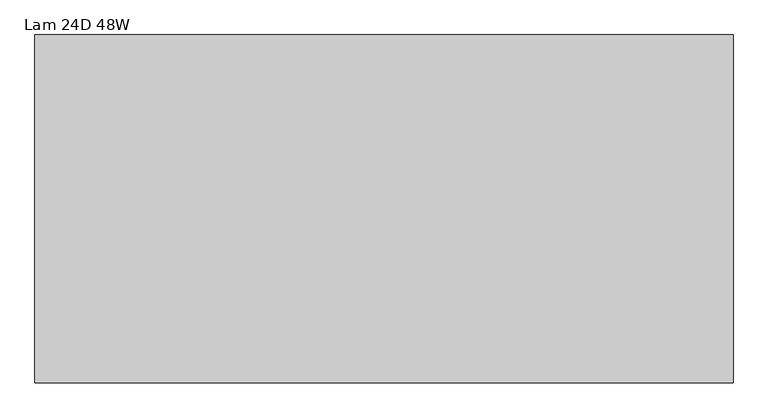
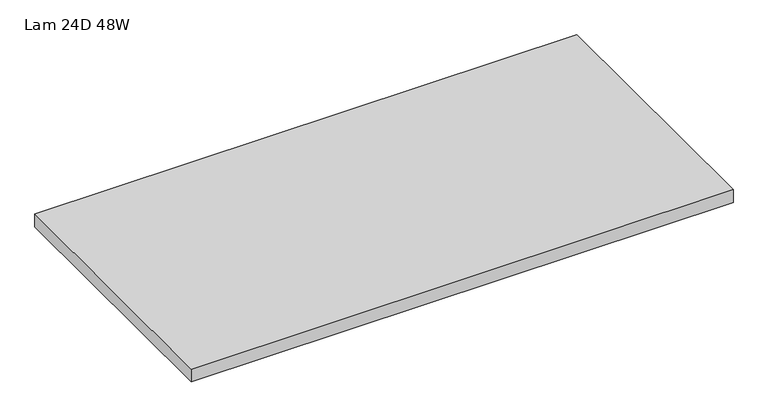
"""IFC4 building model written with IfcOpenShell, lengths in millimetres: furniture geometry, HermanMiller_CoStruc_C4700_RectangularWorkTableSurface : Lam 24D 48W."""

from ifc_helpers import new_model, si_unit, frame, origin, place, context, project, spatial, polyline, outline, extrude, source, transform, mapped, element, save


def lam_24d_48w_479ce18e(model_context):
    return source(origin(), model_context, "Body", "SweptSolid", [
        extrude(outline(polyline([(1219.1999999, -3.0467299), (1219.1999999, -609.6), (3.1750001, -609.6), (3.1750001, -3.0467299), (1219.1999999, -3.0467299)])), frame((0.0, 0.0, 852.678), z_axis=(0.0, 0.0, 1.0), x_axis=(1.0, 0.0, 0.0)), (0.0, 0.0, 1.0), 29.972),
    ])


if __name__ == "__main__":
    model = new_model("IFC4")
    model_context = context("Model", 3, world=origin())
    ifc_project = project(units=[si_unit("LENGTHUNIT", "METRE", prefix="MILLI")], contexts=[model_context])
    site = spatial("IfcSite", under=ifc_project)
    building = spatial("IfcBuilding", under=site)
    placement = place(None, origin())
    lam_24d_48w_shape = lam_24d_48w_479ce18e(model_context)
    element("IfcFurniture", 1, ObjectType="HermanMiller_CoStruc_C4700_RectangularWorkTableSurface : Lam 24D 48W", at=placement, inside=building, context=model_context, shape_type="MappedRepresentation", body=[
        mapped(lam_24d_48w_shape, transform((0.0, 0.0, 0.0), x_axis=(1.0, 0.0, 0.0), y_axis=(0.0, 1.0, 0.0), z_axis=(0.0, 0.0, 1.0))),
    ])
    save(model, "model.ifc")
